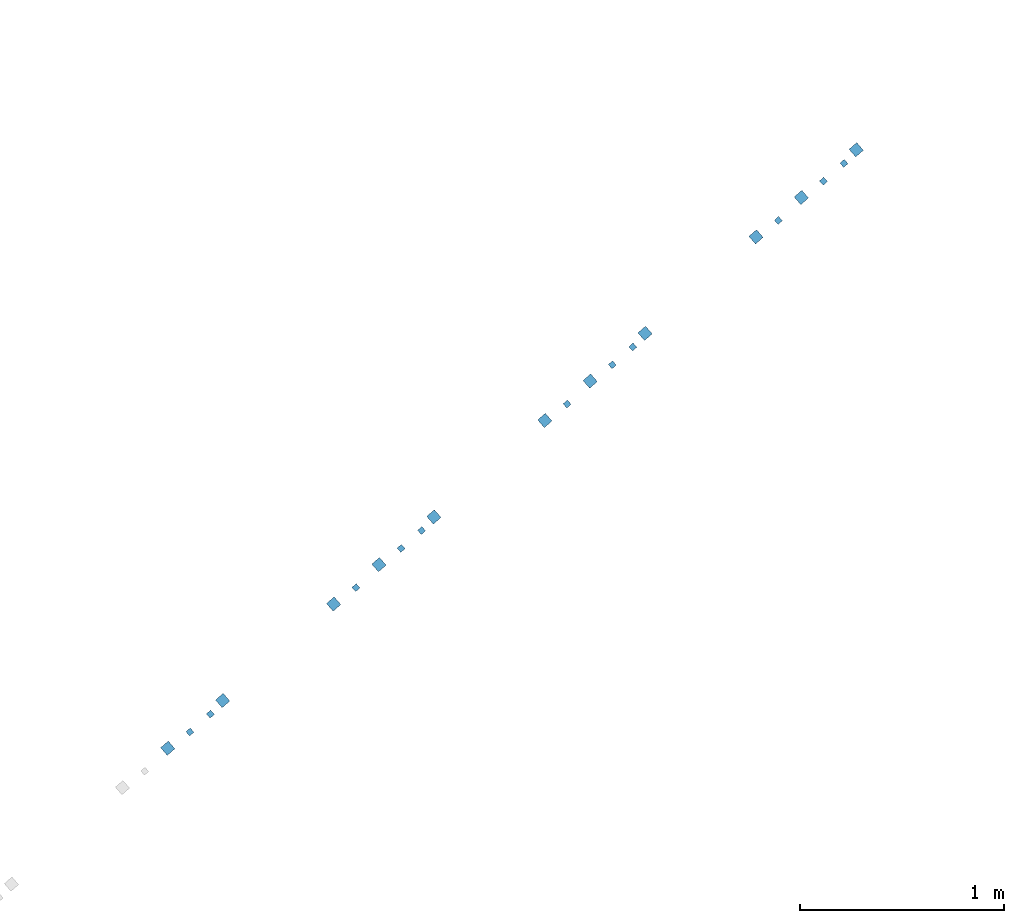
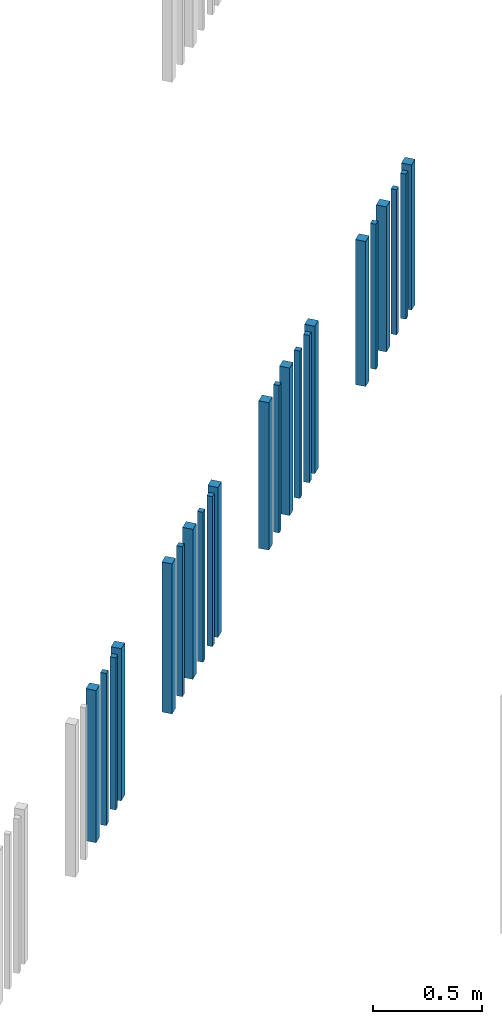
# One storey, part 92 of 124: 22 walls.
"""IFC2X3 building model written with IfcOpenShell, lengths in millimetres."""

import ifcopenshell
import ifcopenshell.guid

model = None  # the IFC model being written
_history = None  # IfcOwnerHistory: only IFC2X3 demands one
_inside = {}  # id of a spatial element -> (the spatial element, [elements in it])
_under = {}  # id of a project, library or spatial element -> (it, [spatial elements below it])
_declared = {}  # id of a project -> (the project, [libraries it declares])
_typed = {}  # id of a type object -> (the type object, [elements of that type])
_made_of = {}  # id of a material, layer set ... -> (it, [elements and type objects made of it])


def new_model(schema):
    """Start an empty IFC model of exactly this schema.

    Asked for "IFC4X3", IfcOpenShell would pick the latest addendum, in which some entities
    have other attributes; the version numbers below select the first issue.
    IFC2X3 requires an IfcOwnerHistory on every rooted entity: one is made here for all.
    """
    global model, _history
    if schema == "IFC4X3":
        model = ifcopenshell.file(schema_version=(4, 3, 0, 0))
    else:
        model = ifcopenshell.file(schema=schema)
    _inside.clear()
    _under.clear()
    _declared.clear()
    _typed.clear()
    _made_of.clear()
    _history = None
    if model.schema == "IFC2X3":
        org = make("IfcOrganization", Name="unknown")
        user = make(
            "IfcPersonAndOrganization",
            ThePerson=make("IfcPerson", FamilyName="unknown"),
            TheOrganization=org,
        )
        app = make(
            "IfcApplication",
            ApplicationDeveloper=org,
            Version="unknown",
            ApplicationFullName="unknown",
            ApplicationIdentifier="unknown",
        )
        _history = make(
            "IfcOwnerHistory",
            OwningUser=user,
            OwningApplication=app,
            ChangeAction="ADDED",
            CreationDate=0,
        )
    return model


def make(cls, **values):
    """One entity of the class cls with the attributes given. An attribute that is None is left unset."""
    return model.create_entity(
        cls, **{name: value for name, value in values.items() if value is not None}
    )


def entity(cls, *values):
    """Any entity or typed value of the class cls, its attributes in the order of the schema. None: left unset."""
    e = model.create_entity(cls)
    for i, value in enumerate(values):
        if value is not None:
            e[i] = value
    return e


def rooted(cls, **values):
    """An entity with a GlobalId (a new one), such as an element, a storey or a relation."""
    return make(cls, GlobalId=ifcopenshell.guid.new(), OwnerHistory=_history, **values)


def si_unit(unit_type, name, prefix=None):
    """IfcSIUnit, for example si_unit("LENGTHUNIT", "METRE", prefix="MILLI")."""
    return make("IfcSIUnit", UnitType=unit_type, Prefix=prefix, Name=name)


def converted_unit(unit_type, name, factor, base, dimensions=None, offset=None):
    """IfcConversionBasedUnit, such as the inch: factor (a typed value) times the base unit."""
    return make(
        "IfcConversionBasedUnit"
        if offset is None
        else "IfcConversionBasedUnitWithOffset",
        ConversionOffset=offset,
        Dimensions=None
        if dimensions is None
        else entity("IfcDimensionalExponents", *dimensions),
        UnitType=unit_type,
        Name=name,
        ConversionFactor=make(
            "IfcMeasureWithUnit", ValueComponent=factor, UnitComponent=base
        ),
    )


def derived_unit(unit_type, elements):
    """IfcDerivedUnit: a product of units, each with its exponent."""
    return make(
        "IfcDerivedUnit",
        Elements=[
            make("IfcDerivedUnitElement", Unit=unit, Exponent=power)
            for unit, power in elements
        ],
        UnitType=unit_type,
    )


def money_unit(currency):
    """IfcMonetaryUnit."""
    return make("IfcMonetaryUnit", Currency=currency)


def assignment(units):
    """IfcUnitAssignment: the units of a project."""
    return None if units is None else make("IfcUnitAssignment", Units=units)


def point(xyz):
    """IfcCartesianPoint."""
    return None if xyz is None else make("IfcCartesianPoint", Coordinates=xyz)


def direction(xyz):
    """IfcDirection."""
    return None if xyz is None else make("IfcDirection", DirectionRatios=xyz)


def frame(location, z_axis=None, x_axis=None):
    """IfcAxis2Placement3D, a coordinate frame: its origin and axes. An axis left out is left unset."""
    return make(
        "IfcAxis2Placement3D",
        Location=point(location),
        Axis=direction(z_axis),
        RefDirection=direction(x_axis),
    )


def origin_with_axes():
    """The frame at (0, 0, 0) with the z axis (0, 0, 1) and the x axis (1, 0, 0) written out."""
    return frame((0.0, 0.0, 0.0), z_axis=(0.0, 0.0, 1.0), x_axis=(1.0, 0.0, 0.0))


def place(relative_to, where):
    """IfcLocalPlacement: puts the frame where relative to a parent placement (None: the world)."""
    return make(
        "IfcLocalPlacement", PlacementRelTo=relative_to, RelativePlacement=where
    )


def context(
    kind, dimensions, precision=None, world=None, true_north=None, identifier=None
):
    """IfcGeometricRepresentationContext, for example the 3D "Model" context."""
    return make(
        "IfcGeometricRepresentationContext",
        ContextIdentifier=identifier,
        ContextType=kind,
        CoordinateSpaceDimension=dimensions,
        Precision=precision,
        WorldCoordinateSystem=world,
        TrueNorth=true_north,
    )


def subcontext(parent, identifier, kind, view, scale=None):
    """IfcGeometricRepresentationSubContext, for example "Body" below "Model"."""
    return make(
        "IfcGeometricRepresentationSubContext",
        ContextIdentifier=identifier,
        ContextType=kind,
        ParentContext=parent,
        TargetScale=scale,
        TargetView=view,
    )


def project(units=None, contexts=None):
    """IfcProject with its units and contexts."""
    return rooted(
        "IfcProject",
        Name="project",
        RepresentationContexts=contexts,
        UnitsInContext=assignment(units),
    )


def spatial(cls, under=None, at=None, **own):
    """A site, building, storey or space (cls), placed at a placement, below another one or the project."""
    s = rooted(cls, ObjectPlacement=at, **own)
    if under is not None:
        _under.setdefault(under.id(), (under, []))[1].append(s)
    return s


def faces_of(points, faces, orient=None, outer=None):
    """IfcFace entities. A face is a list of loops; a loop is a list of indices into points, from 0.

    orient and outer hold one flag for each loop. By default every Orientation is true, the
    first loop of a face is its IfcFaceOuterBound and the others are IfcFaceBound.
    """
    made = []
    for i, loops in enumerate(faces):
        bounds = []
        for j, loop in enumerate(loops):
            is_outer = j == 0 if outer is None else outer[i][j]
            bounds.append(
                make(
                    "IfcFaceOuterBound" if is_outer else "IfcFaceBound",
                    Bound=make("IfcPolyLoop", Polygon=[points[k] for k in loop]),
                    Orientation=True if orient is None else orient[i][j],
                )
            )
        made.append(make("IfcFace", Bounds=bounds))
    return made


def faceted_brep(points, faces, orient=None, outer=None, voids=None):
    """IfcFacetedBrep: a solid bounded by flat faces; with voids (closed shells), ...WithVoids."""
    shared = [point(p) for p in points]
    hull = make("IfcClosedShell", CfsFaces=faces_of(shared, faces, orient, outer))
    if voids is None:
        return make("IfcFacetedBrep", Outer=hull)
    return make(
        "IfcFacetedBrepWithVoids",
        Outer=hull,
        Voids=[
            make(cls, CfsFaces=faces_of(shared, fs, o, b)) for cls, fs, o, b in voids
        ],
    )


def shape(context_of_items, identifier, shape_type, items):
    """IfcShapeRepresentation: the items that make up one representation, for example the "Body"."""
    return make(
        "IfcShapeRepresentation",
        ContextOfItems=context_of_items,
        RepresentationIdentifier=identifier,
        RepresentationType=shape_type,
        Items=items,
    )


def material(Name=None, Category=None):
    """IfcMaterial."""
    return make("IfcMaterial", Name=Name, Category=Category)


def made_of(thing, what):
    """Note that an element or type object is made of a material, layer set ...; save() writes the relation."""
    if what is not None:
        _made_of.setdefault(what.id(), (what, []))[1].append(thing)
    return thing


def type_object(cls, material=None, **own):
    """A type object (cls), such as IfcWallType, which elements share."""
    return made_of(rooted(cls, **own), material)


def element(
    cls,
    number,
    at=None,
    inside=None,
    cuts=None,
    type_object=None,
    material=None,
    context=None,
    identifier="Body",
    shape_type=None,
    held_by="IfcProductDefinitionShape",
    body=None,
    shapes=None,
    **own,
):
    """One element of the class cls, such as IfcWall. Its Tag is "e" and its number.

    at: its placement. inside: the storey or other place that contains it. cuts: it is an
    opening in that element (IfcRelVoidsElement). A single representation is given by context,
    identifier, shape_type and body (its items); several are given by shapes. held_by: the class
    of the entity that holds the representations. save() writes the other relations.
    """
    e = rooted(cls, Tag="e%d" % number, ObjectPlacement=at, **own)
    if body is not None:
        shapes = [shape(context, identifier, shape_type, body)]
    if shapes is not None:
        e.Representation = make(held_by, Representations=shapes)
    if inside is not None:
        _inside.setdefault(inside.id(), (inside, []))[1].append(e)
    if cuts is not None:
        rooted(
            "IfcRelVoidsElement", RelatingBuildingElement=cuts, RelatedOpeningElement=e
        )
    if type_object is not None:
        _typed.setdefault(type_object.id(), (type_object, []))[1].append(e)
    return made_of(e, material)


def aggregate(whole, parts):
    """IfcRelAggregates: a whole, such as a stair, and the parts it consists of."""
    return rooted("IfcRelAggregates", RelatingObject=whole, RelatedObjects=parts)


def save(model, path):
    """Write the relations noted so far, then the file.

    IfcRelAggregates (storeys below a building ...), IfcRelContainedInSpatialStructure (elements
    in a storey), IfcRelDefinesByType, IfcRelAssociatesMaterial and IfcRelDeclares: one each for
    every whole, place, type object, material and project.
    """
    for whole, parts in _under.values():
        aggregate(whole, parts)
    for where, things in _inside.values():
        rooted(
            "IfcRelContainedInSpatialStructure",
            RelatedElements=things,
            RelatingStructure=where,
        )
    for kind, things in _typed.values():
        rooted("IfcRelDefinesByType", RelatedObjects=things, RelatingType=kind)
    for what, things in _made_of.values():
        rooted("IfcRelAssociatesMaterial", RelatedObjects=things, RelatingMaterial=what)
    for by, libraries in _declared.values():
        rooted("IfcRelDeclares", RelatingContext=by, RelatedDefinitions=libraries)
    model.write(path)


model = new_model("IFC2X3")

# Units and contexts
model_context = context("Model", 3, precision=1e-05, world=origin_with_axes(), true_north=direction((0.0, 1.0)))
body_context = subcontext(model_context, "Body", "Model", "MODEL_VIEW")
ifc_project = project(units=[si_unit("LENGTHUNIT", "METRE", prefix="MILLI"), si_unit("AREAUNIT", "SQUARE_METRE"), si_unit("VOLUMEUNIT", "CUBIC_METRE"), converted_unit("PLANEANGLEUNIT", "DEGREE", entity("IfcPlaneAngleMeasure", 0.0174532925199), si_unit("PLANEANGLEUNIT", "RADIAN"), dimensions=[0, 0, 0, 0, 0, 0, 0]), si_unit("SOLIDANGLEUNIT", "STERADIAN"), money_unit("EUR"), converted_unit("TIMEUNIT", "Year", entity("IfcTimeMeasure", 31556926.0), si_unit("TIMEUNIT", "SECOND"), dimensions=[0, 0, 1, 0, 0, 0, 0]), si_unit("MASSUNIT", "GRAM", prefix="KILO"), si_unit("THERMODYNAMICTEMPERATUREUNIT", "DEGREE_CELSIUS"), si_unit("LUMINOUSINTENSITYUNIT", "LUMEN"), si_unit("ENERGYUNIT", "JOULE", prefix="MEGA"), derived_unit("THERMALCONDUCTANCEUNIT", [(si_unit("POWERUNIT", "WATT"), 1), (si_unit("LENGTHUNIT", "METRE"), -1), (si_unit("THERMODYNAMICTEMPERATUREUNIT", "KELVIN"), -1)]), derived_unit("SPECIFICHEATCAPACITYUNIT", [(si_unit("ENERGYUNIT", "JOULE"), 1), (si_unit("MASSUNIT", "GRAM", prefix="KILO"), -1), (si_unit("THERMODYNAMICTEMPERATUREUNIT", "KELVIN"), -1)]), derived_unit("MASSDENSITYUNIT", [(si_unit("MASSUNIT", "GRAM", prefix="KILO"), 1), (si_unit("VOLUMEUNIT", "CUBIC_METRE"), -1)])], contexts=[model_context])

# Site, building, storey
site_placement = place(None, origin_with_axes())
site = spatial("IfcSite", under=ifc_project, at=site_placement, Name="Site", CompositionType="ELEMENT")
building_placement = place(site_placement, origin_with_axes())
building = spatial("IfcBuilding", under=site, at=building_placement, Name="Building", CompositionType="ELEMENT")
storey_placement = place(building_placement, frame((0.0, 0.0, -1615.0), z_axis=(0.0, 0.0, 1.0), x_axis=(1.0, 0.0, 0.0)))
storey = spatial("IfcBuildingStorey", under=building, at=storey_placement, Name="0  korrus", CompositionType="ELEMENT", Elevation=-1615.0)

# Walls
ifc_material = material(Name="Site specified")
wall_type = type_object("IfcWallType", Name="Puitfassaadi ribistik", PredefinedType="NOTDEFINED")
wall_1_placement = place(storey_placement, frame((132966.017386, 85607.4361369, 5964.67565034), z_axis=(0.0, 0.0, 1.0), x_axis=(0.754709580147, 0.656059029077, 0.0)))
element("IfcWall", 1, at=wall_1_placement, inside=storey, type_object=wall_type, material=ifc_material, Name="Site specified", context=body_context, shape_type="Brep", body=[
    faceted_brep([(14.0, 14.0, 856.32434966), (14.0, 14.0, 0.0), (-14.0, 14.0, 0.0), (-14.0, 14.0, 856.32434966), (14.0, -14.0, 856.32434966), (14.0, -14.0, 0.0), (-14.0, -14.0, 0.0), (-14.0, -14.0, 856.32434966)], [[[0, 1, 2, 3]], [[4, 5, 1, 0]], [[2, 1, 5, 6]], [[3, 2, 6, 7]], [[4, 0, 3, 7]], [[7, 6, 5, 4]]]),
])
wall_2_placement = place(storey_placement, frame((133126.348656, 85761.3851262, 5964.67565034), z_axis=(0.0, 0.0, 1.0), x_axis=(0.754709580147, 0.656059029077, 0.0)))
element("IfcWall", 2, at=wall_2_placement, inside=storey, type_object=wall_type, material=ifc_material, Name="Site specified", context=body_context, shape_type="Brep", body=[
    faceted_brep([(25.0, 25.0, 856.32434966), (25.0, 25.0, 0.0), (-25.0, 25.0, 0.0), (-25.0, 25.0, 856.32434966), (25.0, -25.0, 856.32434966), (25.0, -25.0, 0.0), (-25.0, -25.0, 0.0), (-25.0, -25.0, 856.32434966)], [[[0, 1, 2, 3]], [[4, 5, 1, 0]], [[2, 1, 5, 6]], [[3, 2, 6, 7]], [[4, 0, 3, 7]], [[7, 6, 5, 4]]]),
])
wall_3_placement = place(storey_placement, frame((133066.39376, 85694.6919873, 5964.67565034), z_axis=(0.0, 0.0, 1.0), x_axis=(0.754709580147, 0.656059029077, 0.0)))
element("IfcWall", 3, at=wall_3_placement, inside=storey, type_object=wall_type, material=ifc_material, Name="Site specified", context=body_context, shape_type="Brep", body=[
    faceted_brep([(14.0, 14.0, 856.32434966), (14.0, 14.0, 0.0), (-14.0, 14.0, 0.0), (-14.0, 14.0, 856.32434966), (14.0, -14.0, 856.32434966), (14.0, -14.0, 0.0), (-14.0, -14.0, 0.0), (-14.0, -14.0, 856.32434966)], [[[0, 1, 2, 3]], [[4, 5, 1, 0]], [[2, 1, 5, 6]], [[3, 2, 6, 7]], [[4, 0, 3, 7]], [[7, 6, 5, 4]]]),
])
wall_4_placement = place(storey_placement, frame((133778.839626, 86314.0117302, 5976.90109906), z_axis=(0.0, 0.0, 1.0), x_axis=(0.754709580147, 0.656059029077, 0.0)))
element("IfcWall", 4, at=wall_4_placement, inside=storey, type_object=wall_type, material=ifc_material, Name="Site specified", context=body_context, shape_type="Brep", body=[
    faceted_brep([(14.0, 14.0, 844.09890094), (14.0, 14.0, 0.0), (-14.0, 14.0, 0.0), (-14.0, 14.0, 844.09890094), (14.0, -14.0, 844.09890094), (14.0, -14.0, 0.0), (-14.0, -14.0, 0.0), (-14.0, -14.0, 844.09890094)], [[[0, 1, 2, 3]], [[4, 5, 1, 0]], [[2, 1, 5, 6]], [[3, 2, 6, 7]], [[4, 0, 3, 7]], [[7, 6, 5, 4]]]),
])
for number, where, z_axis, x_axis, name in (
    (5, (133891.619919, 86426.6252859, 5976.90109906), (0.0, 0.0, 1.0), (0.754709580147, 0.656059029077, 0.0), "Site specified"),
    (6, (134160.300781, 86660.185996, 5976.90109906), (0.0, 0.0, 1.0), (0.754709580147, 0.656059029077, 0.0), "Site specified"),
):
    element("IfcWall", number, at=place(storey_placement, frame(where, z_axis=z_axis, x_axis=x_axis)), inside=storey, type_object=wall_type, material=ifc_material, Name=name, context=body_context, shape_type="Brep", body=[
        faceted_brep([(25.0, 25.0, 844.09890094), (25.0, 25.0, 0.0), (-25.0, 25.0, 0.0), (-25.0, 25.0, 844.09890094), (25.0, -25.0, 844.09890094), (25.0, -25.0, 0.0), (-25.0, -25.0, 0.0), (-25.0, -25.0, 844.09890094)], [[[0, 1, 2, 3]], [[4, 5, 1, 0]], [[2, 1, 5, 6]], [[3, 2, 6, 7]], [[4, 0, 3, 7]], [[7, 6, 5, 4]]]),
    ])
wall_5_placement = place(storey_placement, frame((134100.345885, 86593.4928571, 5976.90109906), z_axis=(0.0, 0.0, 1.0), x_axis=(0.754709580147, 0.656059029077, 0.0)))
element("IfcWall", 7, at=wall_5_placement, inside=storey, type_object=wall_type, material=ifc_material, Name="Site specified", context=body_context, shape_type="Brep", body=[
    faceted_brep([(14.0, 14.0, 844.09890094), (14.0, 14.0, 0.0), (-14.0, 14.0, 0.0), (-14.0, 14.0, 844.09890094), (14.0, -14.0, 844.09890094), (14.0, -14.0, 0.0), (-14.0, -14.0, 0.0), (-14.0, -14.0, 844.09890094)], [[[0, 1, 2, 3]], [[4, 5, 1, 0]], [[2, 1, 5, 6]], [[3, 2, 6, 7]], [[4, 0, 3, 7]], [[7, 6, 5, 4]]]),
])
wall_6_placement = place(storey_placement, frame((133669.735304, 86233.7439328, 5976.90109906), z_axis=(0.0, 0.0, 1.0), x_axis=(0.754709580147, 0.656059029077, 0.0)))
element("IfcWall", 8, at=wall_6_placement, inside=storey, type_object=wall_type, material=ifc_material, Name="Site specified", context=body_context, shape_type="Brep", body=[
    faceted_brep([(25.0, 25.0, 844.09890094), (25.0, 25.0, 0.0), (-25.0, 25.0, 0.0), (-25.0, 25.0, 844.09890094), (25.0, -25.0, 844.09890094), (25.0, -25.0, 0.0), (-25.0, -25.0, 0.0), (-25.0, -25.0, 844.09890094)], [[[0, 1, 2, 3]], [[4, 5, 1, 0]], [[2, 1, 5, 6]], [[3, 2, 6, 7]], [[4, 0, 3, 7]], [[7, 6, 5, 4]]]),
])
wall_7_placement = place(storey_placement, frame((133999.969511, 86506.2370068, 5976.90109906), z_axis=(0.0, 0.0, 1.0), x_axis=(0.754709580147, 0.656059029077, 0.0)))
element("IfcWall", 9, at=wall_7_placement, inside=storey, type_object=wall_type, material=ifc_material, Name="Site specified", context=body_context, shape_type="Brep", body=[
    faceted_brep([(14.0, 14.0, 844.09890094), (14.0, 14.0, 0.0), (-14.0, 14.0, 0.0), (-14.0, 14.0, 844.09890094), (14.0, -14.0, 844.09890094), (14.0, -14.0, 0.0), (-14.0, -14.0, 0.0), (-14.0, -14.0, 844.09890094)], [[[0, 1, 2, 3]], [[4, 5, 1, 0]], [[2, 1, 5, 6]], [[3, 2, 6, 7]], [[4, 0, 3, 7]], [[7, 6, 5, 4]]]),
])
wall_8_placement = place(storey_placement, frame((132857.667794, 85527.8244161, 5964.67565034), z_axis=(0.0, 0.0, 1.0), x_axis=(0.754709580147, 0.656059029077, 0.0)))
element("IfcWall", 10, at=wall_8_placement, inside=storey, type_object=wall_type, material=ifc_material, Name="Site specified", context=body_context, shape_type="Brep", body=[
    faceted_brep([(25.0, 25.0, 856.32434966), (25.0, 25.0, 0.0), (-25.0, 25.0, 0.0), (-25.0, 25.0, 856.32434966), (25.0, -25.0, 856.32434966), (25.0, -25.0, 0.0), (-25.0, -25.0, 0.0), (-25.0, -25.0, 856.32434966)], [[[0, 1, 2, 3]], [[4, 5, 1, 0]], [[2, 1, 5, 6]], [[3, 2, 6, 7]], [[4, 0, 3, 7]], [[7, 6, 5, 4]]]),
])
wall_9_placement = place(storey_placement, frame((135737.639351, 88031.3454046, 6004.78841722), z_axis=(0.0, 0.0, 1.0), x_axis=(0.754709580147, 0.656059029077, 0.0)))
element("IfcWall", 11, at=wall_9_placement, inside=storey, type_object=wall_type, material=ifc_material, Name="Site specified", context=body_context, shape_type="Brep", body=[
    faceted_brep([(25.0, 25.0, 816.211582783), (25.0, 25.0, 0.0), (-25.0, 25.0, 0.0), (-25.0, 25.0, 816.211582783), (25.0, -25.0, 816.211582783), (25.0, -25.0, 0.0), (-25.0, -25.0, 0.0), (-25.0, -25.0, 816.211582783)], [[[0, 1, 2, 3]], [[4, 5, 1, 0]], [[2, 1, 5, 6]], [[3, 2, 6, 7]], [[4, 0, 3, 7]], [[7, 6, 5, 4]]]),
])
for number, where, z_axis, x_axis, name in (
    (12, (135846.743673, 88111.613202, 6004.78841722), (0.0, 0.0, 1.0), (0.754709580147, 0.656059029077, 0.0), "Site specified"),
    (13, (136168.249931, 88391.0943289, 6004.78841722), (0.0, 0.0, 1.0), (0.754709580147, 0.656059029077, 0.0), "Site specified"),
    (14, (136067.873558, 88303.8384786, 6004.78841722), (0.0, 0.0, 1.0), (0.754709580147, 0.656059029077, 0.0), "Site specified"),
):
    element("IfcWall", number, at=place(storey_placement, frame(where, z_axis=z_axis, x_axis=x_axis)), inside=storey, type_object=wall_type, material=ifc_material, Name=name, context=body_context, shape_type="Brep", body=[
        faceted_brep([(14.0, 14.0, 816.211582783), (14.0, 14.0, 0.0), (-14.0, 14.0, 0.0), (-14.0, 14.0, 816.211582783), (14.0, -14.0, 816.211582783), (14.0, -14.0, 0.0), (-14.0, -14.0, 0.0), (-14.0, -14.0, 816.211582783)], [[[0, 1, 2, 3]], [[4, 5, 1, 0]], [[2, 1, 5, 6]], [[3, 2, 6, 7]], [[4, 0, 3, 7]], [[7, 6, 5, 4]]]),
    ])
for number, where, z_axis, x_axis, name in (
    (15, (136228.204828, 88457.7874678, 6004.78841722), (0.0, 0.0, 1.0), (0.754709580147, 0.656059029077, 0.0), "Site specified"),
    (16, (135959.523965, 88224.2267577, 6004.78841722), (0.0, 0.0, 1.0), (0.754709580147, 0.656059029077, 0.0), "Site specified"),
):
    element("IfcWall", number, at=place(storey_placement, frame(where, z_axis=z_axis, x_axis=x_axis)), inside=storey, type_object=wall_type, material=ifc_material, Name=name, context=body_context, shape_type="Brep", body=[
        faceted_brep([(25.0, 25.0, 816.211582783), (25.0, 25.0, 0.0), (-25.0, 25.0, 0.0), (-25.0, 25.0, 816.211582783), (25.0, -25.0, 816.211582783), (25.0, -25.0, 0.0), (-25.0, -25.0, 0.0), (-25.0, -25.0, 816.211582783)], [[[0, 1, 2, 3]], [[4, 5, 1, 0]], [[2, 1, 5, 6]], [[3, 2, 6, 7]], [[4, 0, 3, 7]], [[7, 6, 5, 4]]]),
    ])
wall_10_placement = place(storey_placement, frame((134812.791751, 87212.8126, 5991.24568933), z_axis=(0.0, 0.0, 1.0), x_axis=(0.754709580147, 0.656059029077, 0.0)))
element("IfcWall", 17, at=wall_10_placement, inside=storey, type_object=wall_type, material=ifc_material, Name="Site specified", context=body_context, shape_type="Brep", body=[
    faceted_brep([(14.0, 14.0, 829.754310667), (14.0, 14.0, 0.0), (-14.0, 14.0, 0.0), (-14.0, 14.0, 829.754310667), (14.0, -14.0, 829.754310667), (14.0, -14.0, 0.0), (-14.0, -14.0, 0.0), (-14.0, -14.0, 829.754310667)], [[[0, 1, 2, 3]], [[4, 5, 1, 0]], [[2, 1, 5, 6]], [[3, 2, 6, 7]], [[4, 0, 3, 7]], [[7, 6, 5, 4]]]),
])
wall_11_placement = place(storey_placement, frame((134703.687429, 87132.5448026, 5991.24568933), z_axis=(0.0, 0.0, 1.0), x_axis=(0.754709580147, 0.656059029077, 0.0)))
element("IfcWall", 18, at=wall_11_placement, inside=storey, type_object=wall_type, material=ifc_material, Name="Site specified", context=body_context, shape_type="Brep", body=[
    faceted_brep([(25.0, 25.0, 829.754310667), (25.0, 25.0, 0.0), (-25.0, 25.0, 0.0), (-25.0, 25.0, 829.754310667), (25.0, -25.0, 829.754310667), (25.0, -25.0, 0.0), (-25.0, -25.0, 0.0), (-25.0, -25.0, 829.754310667)], [[[0, 1, 2, 3]], [[4, 5, 1, 0]], [[2, 1, 5, 6]], [[3, 2, 6, 7]], [[4, 0, 3, 7]], [[7, 6, 5, 4]]]),
])
for number, where, z_axis, x_axis, name in (
    (19, (135134.29801, 87492.2937269, 5991.24568933), (0.0, 0.0, 1.0), (0.754709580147, 0.656059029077, 0.0), "Site specified"),
    (20, (135033.921636, 87405.0378766, 5991.24568933), (0.0, 0.0, 1.0), (0.754709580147, 0.656059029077, 0.0), "Site specified"),
):
    element("IfcWall", number, at=place(storey_placement, frame(where, z_axis=z_axis, x_axis=x_axis)), inside=storey, type_object=wall_type, material=ifc_material, Name=name, context=body_context, shape_type="Brep", body=[
        faceted_brep([(14.0, 14.0, 829.754310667), (14.0, 14.0, 0.0), (-14.0, 14.0, 0.0), (-14.0, 14.0, 829.754310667), (14.0, -14.0, 829.754310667), (14.0, -14.0, 0.0), (-14.0, -14.0, 0.0), (-14.0, -14.0, 829.754310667)], [[[0, 1, 2, 3]], [[4, 5, 1, 0]], [[2, 1, 5, 6]], [[3, 2, 6, 7]], [[4, 0, 3, 7]], [[7, 6, 5, 4]]]),
    ])
for number, where, z_axis, x_axis, name in (
    (21, (135194.252906, 87558.9868658, 5991.24568933), (0.0, 0.0, 1.0), (0.754709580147, 0.656059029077, 0.0), "Site specified"),
    (22, (134925.572043, 87325.4261557, 5991.24568933), (0.0, 0.0, 1.0), (0.754709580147, 0.656059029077, 0.0), "Site specified"),
):
    element("IfcWall", number, at=place(storey_placement, frame(where, z_axis=z_axis, x_axis=x_axis)), inside=storey, type_object=wall_type, material=ifc_material, Name=name, context=body_context, shape_type="Brep", body=[
        faceted_brep([(25.0, 25.0, 829.754310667), (25.0, 25.0, 0.0), (-25.0, 25.0, 0.0), (-25.0, 25.0, 829.754310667), (25.0, -25.0, 829.754310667), (25.0, -25.0, 0.0), (-25.0, -25.0, 0.0), (-25.0, -25.0, 829.754310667)], [[[0, 1, 2, 3]], [[4, 5, 1, 0]], [[2, 1, 5, 6]], [[3, 2, 6, 7]], [[4, 0, 3, 7]], [[7, 6, 5, 4]]]),
    ])

save(model, "model.ifc")
